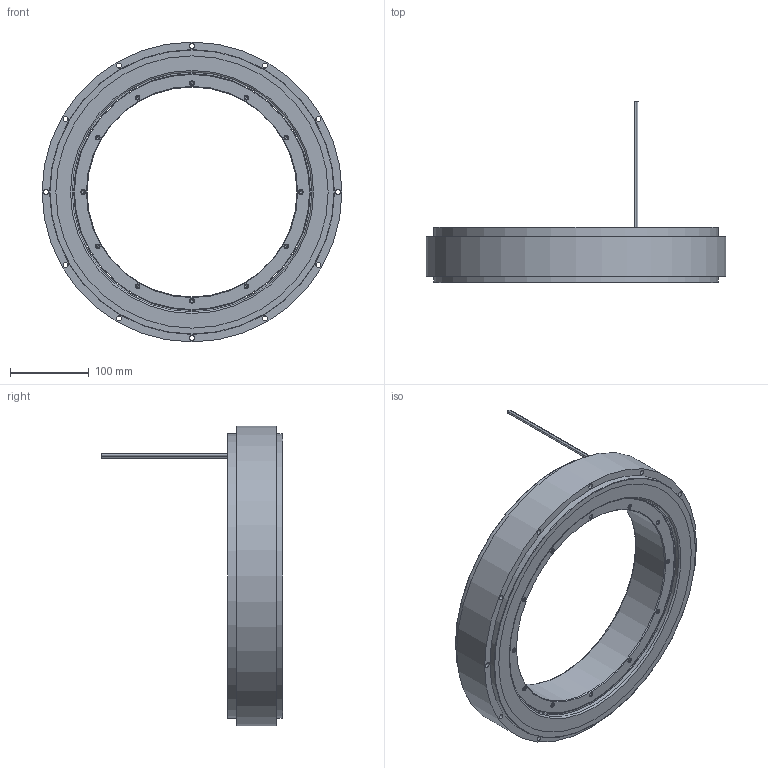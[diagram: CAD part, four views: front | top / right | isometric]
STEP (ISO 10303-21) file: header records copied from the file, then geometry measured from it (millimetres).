
FILE_DESCRIPTION(('STEP AP214'), '1');
FILE_NAME('楋樏襝鍱睯蜬蠈錪', '', ('UNSPECIFIED'), ('UNSPECIFIED'), 'C3D Converter', 'C3D Toolkit', '');
FILE_SCHEMA(('AUTOMOTIVE_DESIGN { 1 0 10303 214 3 1 1}'));
Length unit declared in the file: millimetre
Products named in the file (3): -05; МАНП.684252.020-21; МАНП.684222.023-21
Assembly tree (2 placements, depth 2):
  -05
    МАНП.684252.020-21
    МАНП.684222.023-21
Bounding box: 380 x 230 x 380 mm (x, y, z)
Volume: 3384962 mm3; surface area: 375000.7 mm2
Topology: 5 solids, 5 shells, 122 faces, 261 edges, 155 vertices
Faces by surface type: cone 50, cylinder 49, plane 16, torus 7
Full cylindrical faces by diameter (mm): 2.6 x3, 4.134 x24, 6.4 x12, 266 x1, 298.5 x1, 300 x1, 304 x2, 345 x2, 361 x2, 380 x1
Entity records: 3742 total; most frequent: DIRECTION 512, CARTESIAN_POINT 387, EDGE_LOOP 262, ORIENTED_EDGE 262, AXIS2_PLACEMENT_3D 256, FACE_OUTER_BOUND 188, EDGE_CURVE 131, VERTEX_POINT 131
